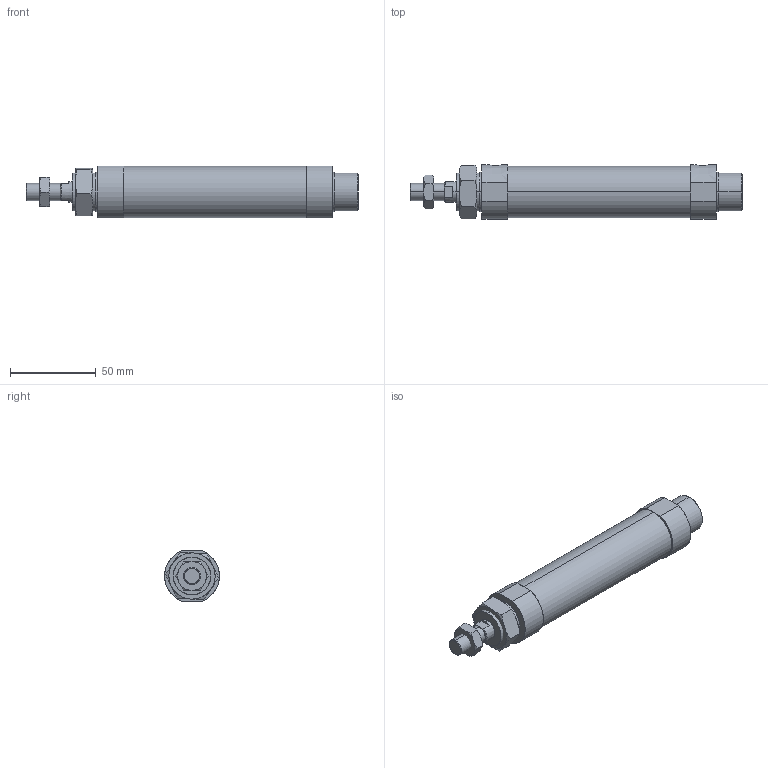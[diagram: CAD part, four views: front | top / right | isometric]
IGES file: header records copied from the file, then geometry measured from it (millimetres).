
Start section: SolidWorks IGES file using analytic representation for surfaces
Global section: file name: C:\Users\Toshiba\Desktop\J#2-25-75-N.IGS; native system: SolidWorks 2014; preprocessor: SolidWorks 2014; author: Toshiba; date: 160308.151344; units: millimetre
Bounding box: 194 x 32 x 30 mm (x, y, z)
Surface area: 22010.9 mm2 (no closed solid volume)
Topology: 0 solids, 0 shells, 97 faces, 1744 edges, 1740 vertices
Faces by surface type: bspline 61, revolution 36
